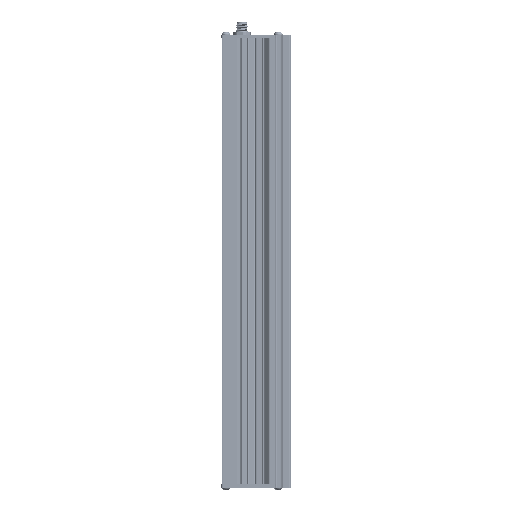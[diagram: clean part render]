
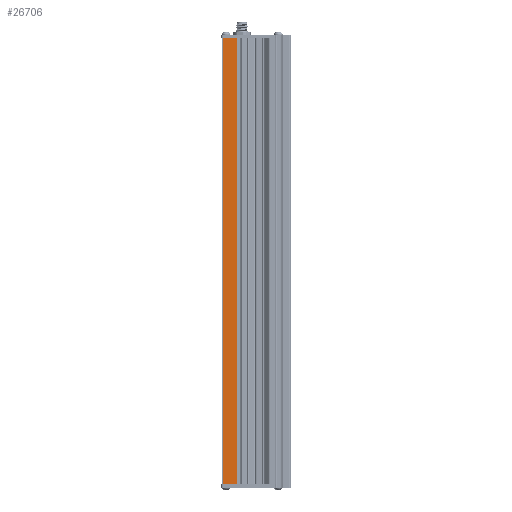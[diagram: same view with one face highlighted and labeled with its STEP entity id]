
A CAD part, left-side view. The second image highlights one B-rep face of the part: STEP entity #26706.
In plain terms, the highlighted planar face has unit normal (-1, 0, 0).
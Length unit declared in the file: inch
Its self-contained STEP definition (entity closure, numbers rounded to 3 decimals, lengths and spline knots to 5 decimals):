
#1450 = VERTEX_POINT ( 'NONE', #19851 ) ;
#2950 = LINE ( 'NONE', #14957, #37044 ) ;
#4274 = VERTEX_POINT ( 'NONE', #23655 ) ;
#6845 = CARTESIAN_POINT ( 'NONE',  ( -1.76811, 1.342, -9.125 ) ) ;
#7679 = CARTESIAN_POINT ( 'NONE',  ( -1.76811, 1.342, 9.125 ) ) ;
#7861 = CARTESIAN_POINT ( 'NONE',  ( -1.76811, 1.342, 9.125 ) ) ;
#8339 = ORIENTED_EDGE ( 'NONE', *, *, #16745, .F. ) ;
#9729 = DIRECTION ( 'NONE',  ( 0., -1., 0. ) ) ;
#12034 = DIRECTION ( 'NONE',  ( 0., 0., -1. ) ) ;
#14957 = CARTESIAN_POINT ( 'NONE',  ( -1.76811, 1.342, 9.125 ) ) ;
#16745 = EDGE_CURVE ( 'NONE', #31975, #1450, #35902, .T. ) ;
#19851 = CARTESIAN_POINT ( 'NONE',  ( -1.76811, 0.75971, 9.125 ) ) ;
#22343 = ORIENTED_EDGE ( 'NONE', *, *, #37276, .T. ) ;
#23324 = EDGE_CURVE ( 'NONE', #4274, #28954, #36253, .T. ) ;
#23655 = CARTESIAN_POINT ( 'NONE',  ( -1.76811, 1.342, -9.125 ) ) ;
#24459 = EDGE_CURVE ( 'NONE', #1450, #28954, #34902, .T. ) ;
#25253 = ORIENTED_EDGE ( 'NONE', *, *, #23324, .T. ) ;
#26232 = VECTOR ( 'NONE', #31430, 39.37008 ) ;
#26536 = VECTOR ( 'NONE', #36262, 39.37008 ) ;
#26706 = ADVANCED_FACE ( 'NONE', ( #26746 ), #34383, .F. ) ;
#26746 = FACE_OUTER_BOUND ( 'NONE', #30342, .T. ) ;
#27359 = CARTESIAN_POINT ( 'NONE',  ( -1.76811, 1.342, 9.125 ) ) ;
#28198 = AXIS2_PLACEMENT_3D ( 'NONE', #7861, #31493, #37454 ) ;
#28954 = VERTEX_POINT ( 'NONE', #33197 ) ;
#30342 = EDGE_LOOP ( 'NONE', ( #25253, #34014, #8339, #22343 ) ) ;
#31430 = DIRECTION ( 'NONE',  ( 0., 0., -1. ) ) ;
#31493 = DIRECTION ( 'NONE',  ( 1., 0., 0. ) ) ;
#31629 = CARTESIAN_POINT ( 'NONE',  ( -1.76811, 0.75971, 9.125 ) ) ;
#31975 = VERTEX_POINT ( 'NONE', #7679 ) ;
#32073 = VECTOR ( 'NONE', #9729, 39.37008 ) ;
#33197 = CARTESIAN_POINT ( 'NONE',  ( -1.76811, 0.75971, -9.125 ) ) ;
#34014 = ORIENTED_EDGE ( 'NONE', *, *, #24459, .F. ) ;
#34383 = PLANE ( 'NONE',  #28198 ) ;
#34902 = LINE ( 'NONE', #31629, #26232 ) ;
#35902 = LINE ( 'NONE', #27359, #26536 ) ;
#36253 = LINE ( 'NONE', #6845, #32073 ) ;
#36262 = DIRECTION ( 'NONE',  ( 0., -1., 0. ) ) ;
#37044 = VECTOR ( 'NONE', #12034, 39.37008 ) ;
#37276 = EDGE_CURVE ( 'NONE', #31975, #4274, #2950, .T. ) ;
#37454 = DIRECTION ( 'NONE',  ( 0., 1., 0. ) ) ;
